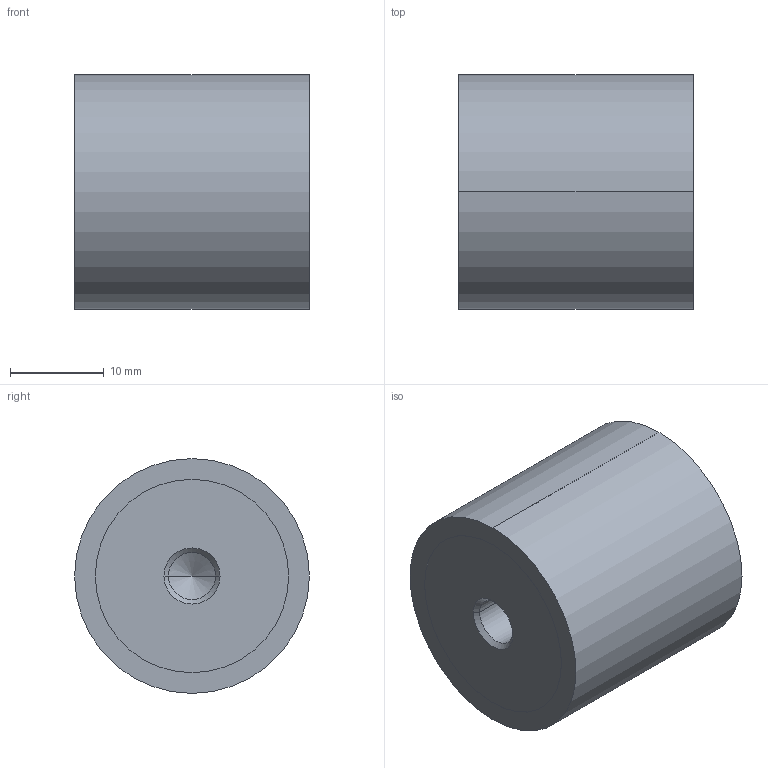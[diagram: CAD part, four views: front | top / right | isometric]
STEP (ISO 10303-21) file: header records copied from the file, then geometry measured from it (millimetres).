
FILE_DESCRIPTION (( 'STEP AP214' ), '1' );
FILE_NAME ('451-25-25-M6-EE-70.step', '2020-03-05T09:11:47', ( '' ), ( '' ), 'SwSTEP 2.0', 'SolidWorks 2019', '' );
FILE_SCHEMA (( 'AUTOMOTIVE_DESIGN' ));
Length unit declared in the file: millimetre
Products named in the file (1): 451-25-25-M6-EE-70
Bounding box: 25 x 25 x 25 mm (x, y, z)
Volume: 12006.3 mm3; surface area: 3132.9 mm2
Topology: 1 solids, 1 shells, 22 faces, 46 edges, 26 vertices
Faces by surface type: cylinder 10, cone 8, plane 4
Entity records: 684 total; most frequent: DIRECTION 112, CARTESIAN_POINT 91, ORIENTED_EDGE 84, AXIS2_PLACEMENT_3D 47, EDGE_CURVE 42, EDGE_LOOP 26, VERTEX_POINT 26, CIRCLE 24
